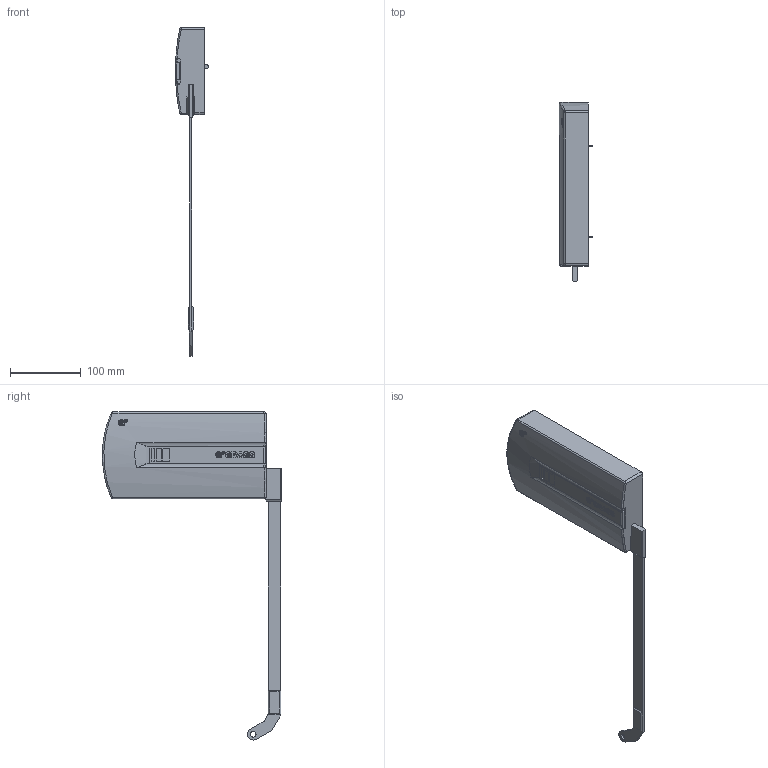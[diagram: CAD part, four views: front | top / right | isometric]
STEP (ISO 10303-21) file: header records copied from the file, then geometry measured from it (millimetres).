
FILE_DESCRIPTION (( 'STEP AP203' ), '1' );
FILE_NAME ('Kinvaro_F-20_Typ7_rechts_D2876035125~a.step', '2012-05-04T06:29:04', ( 'admin' ), ( 'Hewlett-Packard Company' ), 'SwSTEP 2.0', 'SolidWorks 2011', '' );
FILE_SCHEMA (( 'CONFIG_CONTROL_DESIGN' ));
Length unit declared in the file: millimetre
Products named in the file (1): Kinvaro_F-20_Typ7_rechts_D2876035125~a
Bounding box: 46.99 x 252.91 x 463.5 mm (x, y, z)
Volume: 1094392.3 mm3; surface area: 100218.7 mm2
Topology: 1 solids, 1 shells, 417 faces, 1151 edges, 755 vertices
Faces by surface type: cylinder 229, plane 172, torus 8, bspline 4, sphere 4
Entity records: 14118 total; most frequent: CARTESIAN_POINT 3462, ORIENTED_EDGE 2296, DIRECTION 2163, EDGE_CURVE 1148, AXIS2_PLACEMENT_3D 773, VERTEX_POINT 755, LINE 617, VECTOR 617
